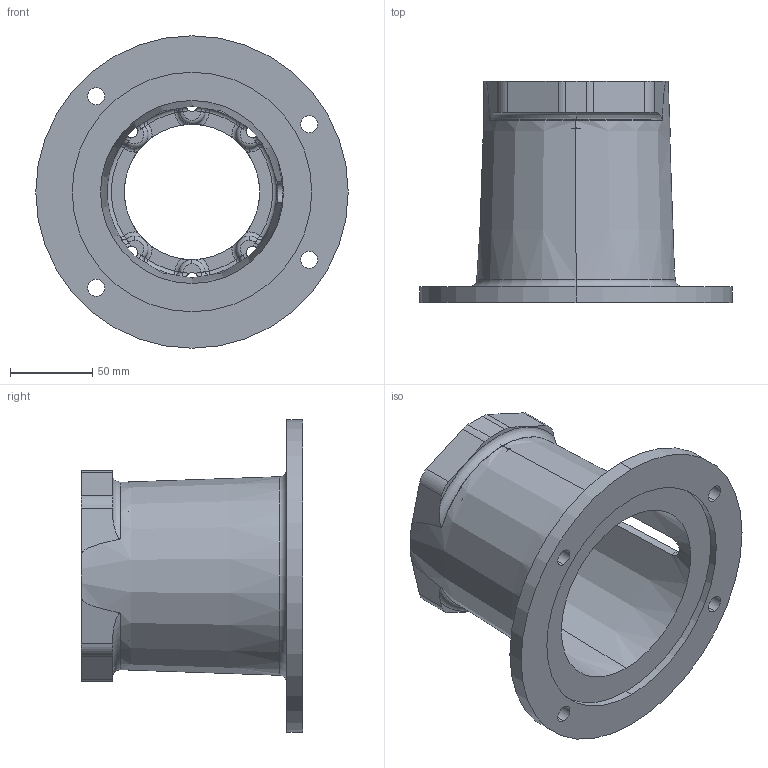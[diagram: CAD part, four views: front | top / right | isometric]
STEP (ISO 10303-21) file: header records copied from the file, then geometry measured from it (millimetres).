
FILE_DESCRIPTION (( 'STEP AP203' ), '1' );
FILE_NAME ('E575502A.STEP', '2014-11-03T15:33:13', ( '' ), ( '' ), 'SwSTEP 2.0', 'SolidWorks 2014', '' );
FILE_SCHEMA (( 'CONFIG_CONTROL_DESIGN' ));
Length unit declared in the file: inch
Products named in the file (1): E575502A
Bounding box: 190.5 x 134.87 x 190.5 mm (x, y, z)
Volume: 432244.6 mm3; surface area: 145108.1 mm2
Topology: 1 solids, 1 shells, 195 faces, 538 edges, 321 vertices
Faces by surface type: torus 54, cylinder 43, plane 30, sphere 24, bspline 24, cone 20
Entity records: 8468 total; most frequent: CARTESIAN_POINT 3600, ORIENTED_EDGE 1044, DIRECTION 1027, EDGE_CURVE 522, AXIS2_PLACEMENT_3D 474, VERTEX_POINT 321, CIRCLE 302, EDGE_LOOP 215
